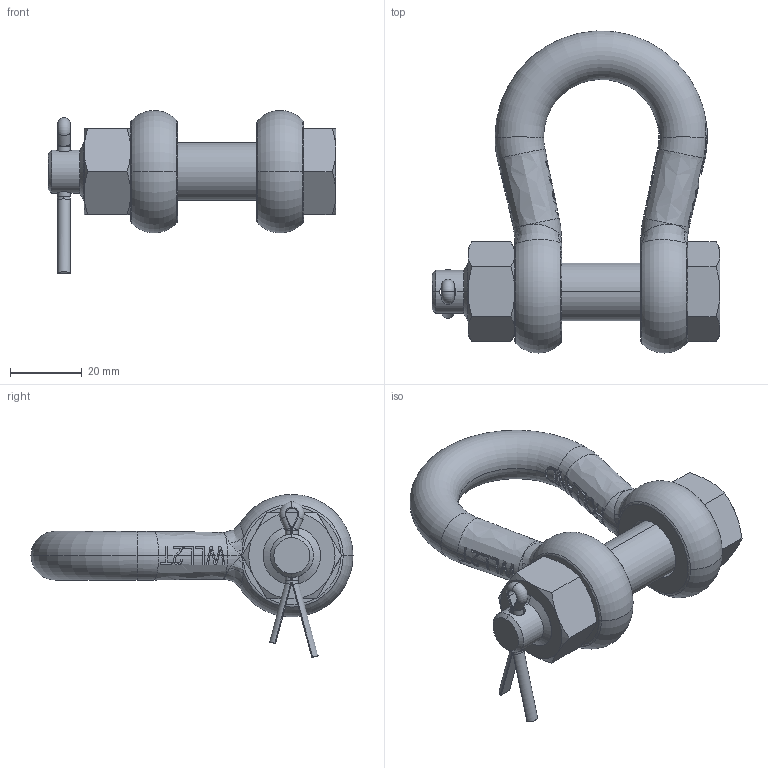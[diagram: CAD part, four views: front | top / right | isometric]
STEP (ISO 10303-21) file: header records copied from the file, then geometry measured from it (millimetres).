
FILE_DESCRIPTION (( 'STEP AP214' ), '1' );
FILE_NAME ('GPGHMB13.STEP', '2024-02-12T19:28:58', ( '' ), ( '' ), 'SwSTEP 2.0', 'SolidWorks 2018', '' );
FILE_SCHEMA (( 'AUTOMOTIVE_DESIGN' ));
Length unit declared in the file: millimetre
Products named in the file (5): gpghmb13_03; GPGHMB13; gpghmb13_04; gpghmb13_02; gpghmb13_01
Assembly tree (4 placements, depth 2):
  GPGHMB13
    gpghmb13_01
    gpghmb13_02
    gpghmb13_03
    gpghmb13_04
Bounding box: 80 x 89.47 x 45.27 mm (x, y, z)
Volume: 55431 mm3; surface area: 19408.2 mm2
Topology: 4 solids, 4 shells, 511 faces, 1371 edges, 862 vertices
Faces by surface type: plane 223, bspline 125, cylinder 86, torus 47, cone 30
Entity records: 25752 total; most frequent: CARTESIAN_POINT 14123, ORIENTED_EDGE 2710, DIRECTION 1886, EDGE_CURVE 1355, VERTEX_POINT 862, AXIS2_PLACEMENT_3D 665, VECTOR 556, LINE 556
